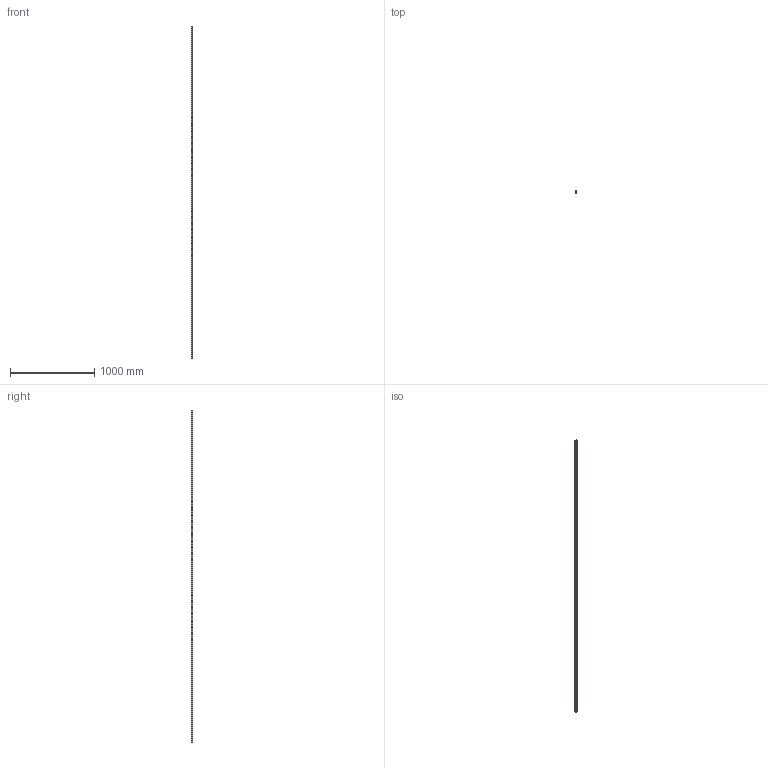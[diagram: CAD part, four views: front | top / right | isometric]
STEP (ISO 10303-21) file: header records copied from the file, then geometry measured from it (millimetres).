
FILE_DESCRIPTION (( 'STEP AP203' ), '1' );
FILE_NAME ('L1016.BRF25-3940.step', '2019-06-13T08:49:11', ( '' ), ( '' ), 'SwSTEP 2.0', 'SolidWorks 2017', '' );
FILE_SCHEMA (( 'CONFIG_CONTROL_DESIGN' ));
Length unit declared in the file: millimetre
Products named in the file (1): L1016.BRF25-3940
Bounding box: 23 x 19.2 x 3940 mm (x, y, z)
Volume: 1504353.6 mm3; surface area: 362285.1 mm2
Topology: 1 solids, 1 shells, 488 faces, 1128 edges, 642 vertices
Faces by surface type: cylinder 268, cone 132, plane 88
Entity records: 13045 total; most frequent: DIRECTION 2510, CARTESIAN_POINT 2127, ORIENTED_EDGE 1992, AXIS2_PLACEMENT_3D 1025, EDGE_CURVE 996, VERTEX_POINT 642, EDGE_LOOP 620, CIRCLE 536
